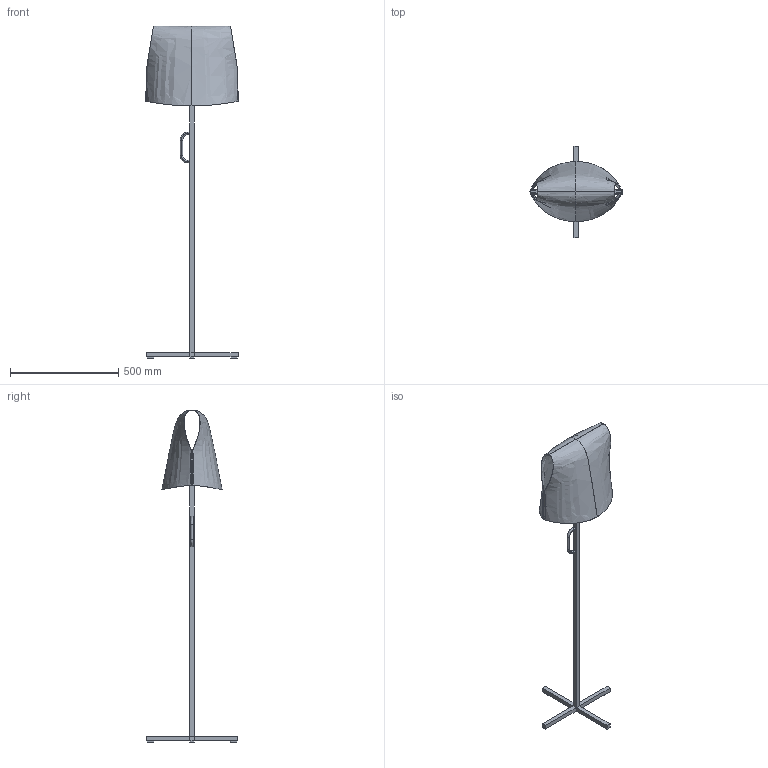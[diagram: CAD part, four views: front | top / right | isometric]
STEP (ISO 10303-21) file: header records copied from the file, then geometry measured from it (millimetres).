
FILE_DESCRIPTION(/* description */ (''),/* implementation_level */ '2;1');
FILE_NAME(/* name */ '23003-59.step',/* time_stamp */ '2024-05-30T15:15:27+02:00',/* author */ ('RenataManzini'),/* organization */ (''),/* preprocessor_version */ 'ST-DEVELOPER v20',/* originating_system */ 'AutoCAD Mechanical',/* authorisation */ '');
FILE_SCHEMA (('AUTOMOTIVE_DESIGN { 1 0 10303 214 3 1 1 }'));
Length unit declared in the file: millimetre
Products named in the file (2): Product; pieza_lamp_luang - pieza_soporte_luang-705065-_3D_
Assembly tree (1 placements, depth 2):
  Product
    pieza_lamp_luang - pieza_soporte_luang-705065-_3D_
Bounding box: 426.79 x 425 x 1533.99 mm (x, y, z)
Volume: 929415.9 mm3; surface area: 933986.2 mm2
Topology: 9 solids, 10 shells, 157 faces, 381 edges, 241 vertices
Faces by surface type: plane 69, cylinder 62, bspline 24, torus 2
Entity records: 7587 total; most frequent: CARTESIAN_POINT 3943, ORIENTED_EDGE 732, DIRECTION 708, EDGE_CURVE 378, AXIS2_PLACEMENT_3D 255, VERTEX_POINT 236, LINE 198, VECTOR 198
